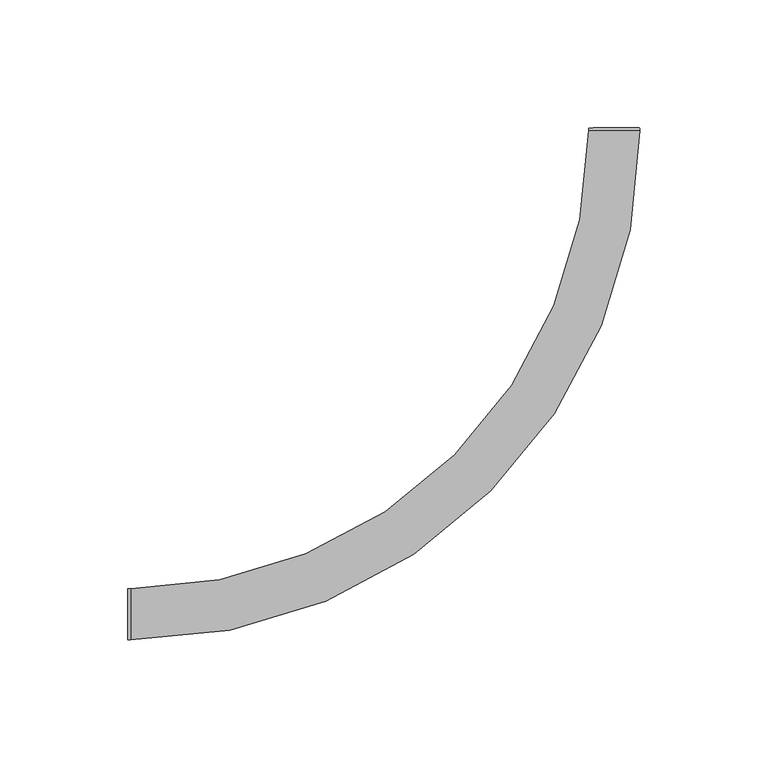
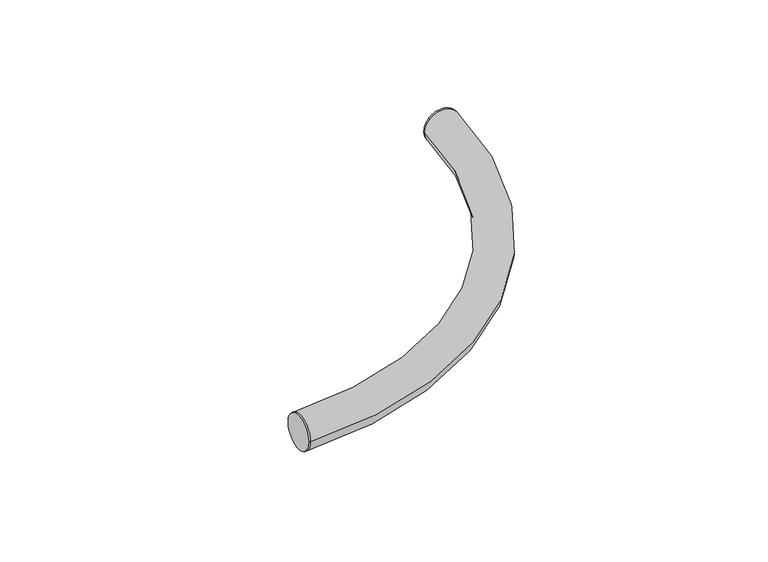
"""IFC4 building model written with IfcOpenShell, lengths in millimetres: cable carrier fitting geometry, ADSK_Поворот_Минимальный размер : Неспецифицируемый."""

from ifc_helpers import new_model, si_unit, point, frame, origin, place, context, project, spatial, circle_curve, ellipse_curve, trimmed, source, transform, mapped, element, save
from ifc_brep_helpers import plane_surface, cylinder_surface, revolved_surface, advanced_brep


def cable_carrier_fitting_d6922372(model_context):
    return source(origin(), model_context, "Body", "AdvancedBrep", [
        advanced_brep(
        [(-190.0049128, -10.0, 0.0), (-190.0049128, 10.0, 0.0), (-189.0049128, -10.0, 0.0), (-189.0049128, 10.0, 0.0), (-10.0049128, 189.0046528, 0.0), (9.9950872, 189.0051726, 0.0), (9.9950612, 190.0051726, 0.0), (-10.0049388, 190.0046528, 0.0)],
        [
            (0, 1, circle_curve(frame((-190.0049128, 0.0, 0.0), z_axis=(-1.0, -4.920489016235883e-12, 0.0), x_axis=(-4.920489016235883e-12, 1.0, 0.0)), 10.0)),
            (1, 0, circle_curve(frame((-190.0049128, 0.0, 0.0), z_axis=(-1.0, -4.920489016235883e-12, 0.0), x_axis=(-4.920489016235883e-12, 1.0, 0.0)), 10.0)),
            (0, 2),
            (2, 3, circle_curve(frame((-189.0049128, 0.0, 0.0), z_axis=(-1.0, -4.920489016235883e-12, 0.0), x_axis=(-4.920489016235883e-12, 1.0, 0.0)), 10.0)),
            (3, 1),
            (3, 2, circle_curve(frame((-189.0049128, 0.0, 0.0), z_axis=(-1.0, -4.920489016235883e-12, 0.0), x_axis=(-4.920489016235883e-12, 1.0, 0.0)), 10.0)),
            (4, 3, circle_curve(frame((-189.0049128, 189.0, 0.0), z_axis=(0.0, 0.0, -1.0), x_axis=(0.0, -1.0, 0.0)), 179.0)),
            (2, 5, circle_curve(frame((-189.0049128, 189.0, 0.0), z_axis=(0.0, 0.0, 1.0), x_axis=(0.0, -1.0, 0.0)), 199.0)),
            (5, 4, circle_curve(frame((-0.0049128, 189.0049127, 0.0), z_axis=(2.5993065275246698e-05, -0.9999999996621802, 0.0), x_axis=(-0.9999999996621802, -2.5993065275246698e-05, 0.0)), 10.0)),
            (4, 5, circle_curve(frame((-0.0049128, 189.0049127, 0.0), z_axis=(2.5993065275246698e-05, -0.9999999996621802, 0.0), x_axis=(-0.9999999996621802, -2.5993065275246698e-05, 0.0)), 10.0)),
            (6, 7, circle_curve(frame((-0.0049388, 190.0049127, 0.0), z_axis=(-2.599306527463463e-05, 0.9999999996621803, 0.0), x_axis=(-0.9999999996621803, -2.599306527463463e-05, 0.0)), 10.0)),
            (7, 6, circle_curve(frame((-0.0049388, 190.0049127, 0.0), z_axis=(-2.599306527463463e-05, 0.9999999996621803, 0.0), x_axis=(-0.9999999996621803, -2.599306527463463e-05, 0.0)), 10.0)),
            (5, 6),
            (7, 4),
        ],
        [
            plane_surface(frame((-190.0049128, 0.0, 0.0), z_axis=(-1.0, -4.920489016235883e-12, 0.0), x_axis=(0.0, 0.0, 1.0))),
            cylinder_surface(frame((-190.0049128, 0.0, 0.0), z_axis=(-1.0, -4.920489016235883e-12, 0.0), x_axis=(-4.920489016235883e-12, 1.0, 0.0)), 10.0),
            revolved_surface(trimmed(ellipse_curve(frame((-189.0049128, 0.0, 0.0), z_axis=(-1.0, 0.0, 0.0), x_axis=(0.0, 1.0, 0.0)), 10.0, 10.0), [point((-189.0049128, -10.0, 0.0))], [point((-189.0049128, 10.0, 0.0))], True, "CARTESIAN"), (-189.0049128, 189.0, 0.0), (0.0, 0.0, 1.0)),
            revolved_surface(trimmed(ellipse_curve(frame((-189.0049128, 0.0, 0.0), z_axis=(-1.0, 0.0, 0.0), x_axis=(0.0, 1.0, 0.0)), 10.0, 10.0), [point((-189.0049128, 10.0, 0.0))], [point((-189.0049128, -10.0, 0.0))], True, "CARTESIAN"), (-189.0049128, 189.0, 0.0), (0.0, 0.0, 1.0)),
            plane_surface(frame((-0.0049388, 190.0049127, 0.0), z_axis=(-2.5993065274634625e-05, 0.9999999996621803, 0.0), x_axis=(0.0, 0.0, 1.0))),
            cylinder_surface(frame((-0.0049128, 189.0049127, 0.0), z_axis=(2.599306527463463e-05, -0.9999999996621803, 0.0), x_axis=(-0.9999999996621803, -2.599306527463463e-05, 0.0)), 10.0),
        ],
        [
            (0, [[1, 2]]),
            (1, [[-1, 3, 4, 5]]),
            (1, [[-2, -5, 6, -3]]),
            (2, [[7, -4, 8, 9]]),
            (3, [[-8, -6, -7, 10]]),
            (4, [[11, 12]]),
            (5, [[-9, 13, -12, 14]]),
            (5, [[-10, -14, -11, -13]]),
        ],
    ),
    ])


if __name__ == "__main__":
    model = new_model("IFC4")
    model_context = context("Model", 3, world=origin())
    ifc_project = project(units=[si_unit("LENGTHUNIT", "METRE", prefix="MILLI")], contexts=[model_context])
    site = spatial("IfcSite", under=ifc_project)
    building = spatial("IfcBuilding", under=site)
    placement = place(None, origin())
    cable_carrier_fitting_shape = cable_carrier_fitting_d6922372(model_context)
    element("IfcCableCarrierFitting", 1, ObjectType="ADSK_Поворот_Минимальный размер : Неспецифицируемый", at=placement, inside=building, context=model_context, shape_type="MappedRepresentation", body=[
        mapped(cable_carrier_fitting_shape, transform((0.0, 0.0, 0.0), x_axis=(1.0, 0.0, 0.0), y_axis=(0.0, 1.0, 0.0), z_axis=(0.0, 0.0, 1.0))),
    ])
    save(model, "model.ifc")
